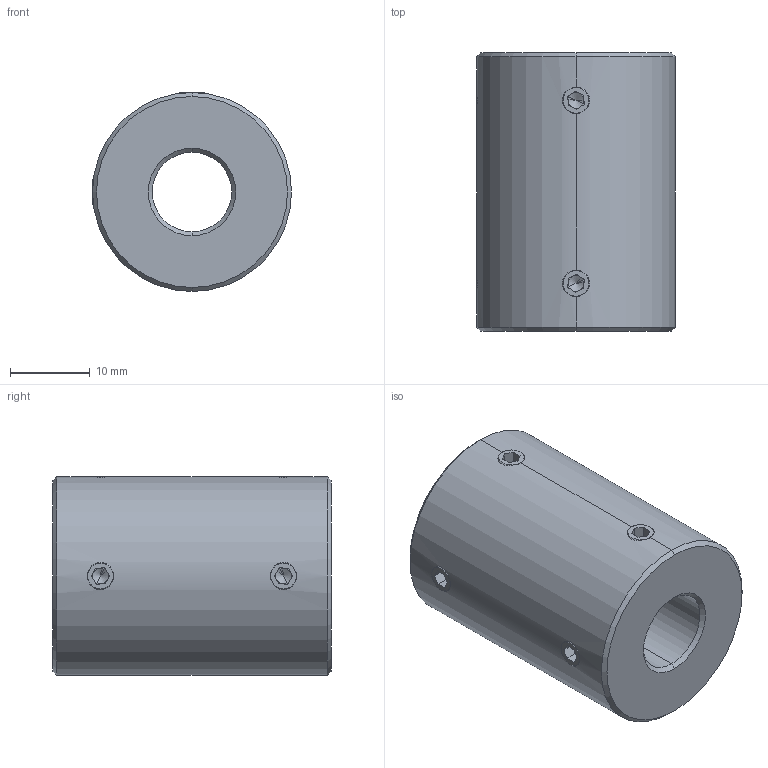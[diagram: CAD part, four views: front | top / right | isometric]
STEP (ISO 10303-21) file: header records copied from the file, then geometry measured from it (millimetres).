
FILE_DESCRIPTION (( 'STEP AP214' ), '1' );
FILE_NAME ('LL-D-D25L35-10-10½¨Ä£.STEP', '2022-07-23T00:43:37', ( '' ), ( '' ), 'SwSTEP 2.0', 'SolidWorks 2022', '' );
FILE_SCHEMA (( 'AUTOMOTIVE_DESIGN' ));
Length unit declared in the file: millimetre
Products named in the file (1): LL-D-D25L35-10-10膘耀
Bounding box: 25 x 35 x 25 mm (x, y, z)
Volume: 14256.8 mm3; surface area: 4826.6 mm2
Topology: 1 solids, 1 shells, 110 faces, 280 edges, 172 vertices
Faces by surface type: plane 58, cone 32, cylinder 20
Entity records: 3646 total; most frequent: CARTESIAN_POINT 1003, ORIENTED_EDGE 544, DIRECTION 542, EDGE_CURVE 272, AXIS2_PLACEMENT_3D 199, VERTEX_POINT 172, VECTOR 144, LINE 144
